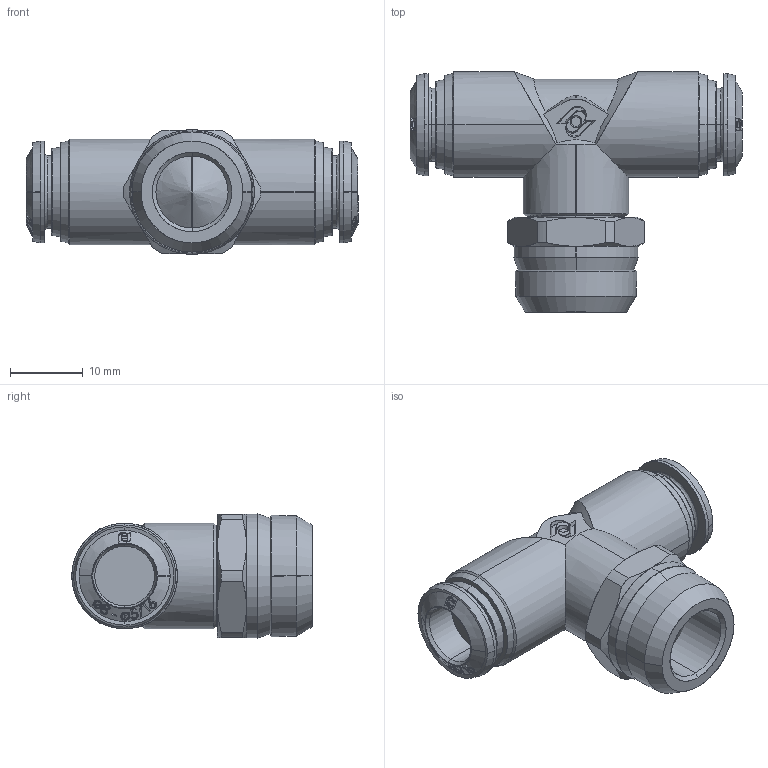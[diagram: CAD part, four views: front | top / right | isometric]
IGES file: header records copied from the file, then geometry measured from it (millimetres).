
Start section: SolidWorks IGES file using analytic representation for surfaces
Global section: file name: K:\Disegni Esecutivi\Serie 50000\ASSIEMI_50000\50211\ASSIEMI_PIENI_50211\50211000081.IGS; native system: SolidWorks 2008; preprocessor: SolidWorks 2008; author: cad02; date: 080522.094926; units: millimetre
Bounding box: 45.6 x 33 x 17.1 mm (x, y, z)
Surface area: 6238.7 mm2 (no closed solid volume)
Topology: 0 solids, 0 shells, 500 faces, 5699 edges, 5695 vertices
Faces by surface type: bspline 306, revolution 194
